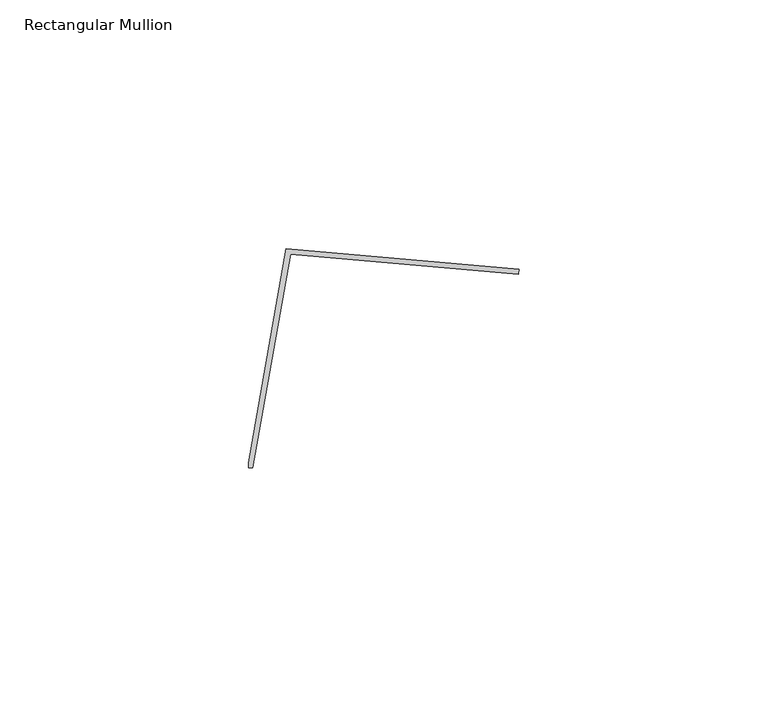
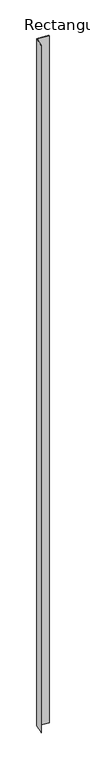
"""IFC4 building model written with IfcOpenShell, lengths in millimetres: member geometry, Rectangular Mullion : CD_NINELINE_Batten Start."""

from ifc_helpers import new_model, si_unit, frame, origin, place, context, project, spatial, polyline, outline, extrude, source, transform, mapped, element, save


def rectangular_mullion_dff8aeb3(model_context):
    return source(origin(), model_context, "Body", "SweptSolid", [
        extrude(outline(polyline([(-54.4029206, 0.9999629), (-46.821181, 44.0), (0.0, 39.9040256), (-0.0871484, 38.9078303), (-45.9954846, 42.9239479), (-53.5638148, -3.78e-05), (-54.4029206, -3.78e-05), (-54.4029206, 0.9999629)])), frame((0.0, 0.0, -2942.0), z_axis=(0.0, 0.0, 1.0), x_axis=(1.0, 0.0, 0.0)), (0.0, 0.0, 1.0), 2942.0),
    ])


if __name__ == "__main__":
    model = new_model("IFC4")
    model_context = context("Model", 3, world=origin())
    ifc_project = project(units=[si_unit("LENGTHUNIT", "METRE", prefix="MILLI")], contexts=[model_context])
    site = spatial("IfcSite", under=ifc_project)
    building = spatial("IfcBuilding", under=site)
    placement = place(None, origin())
    rectangular_mullion_shape = rectangular_mullion_dff8aeb3(model_context)
    element("IfcMember", 1, ObjectType="Rectangular Mullion : CD_NINELINE_Batten Start", at=placement, inside=building, context=model_context, shape_type="MappedRepresentation", body=[
        mapped(rectangular_mullion_shape, transform((0.0, 0.0, 0.0), x_axis=(1.0, 0.0, 0.0), y_axis=(0.0, 1.0, 0.0), z_axis=(0.0, 0.0, 1.0))),
    ])
    save(model, "model.ifc")
